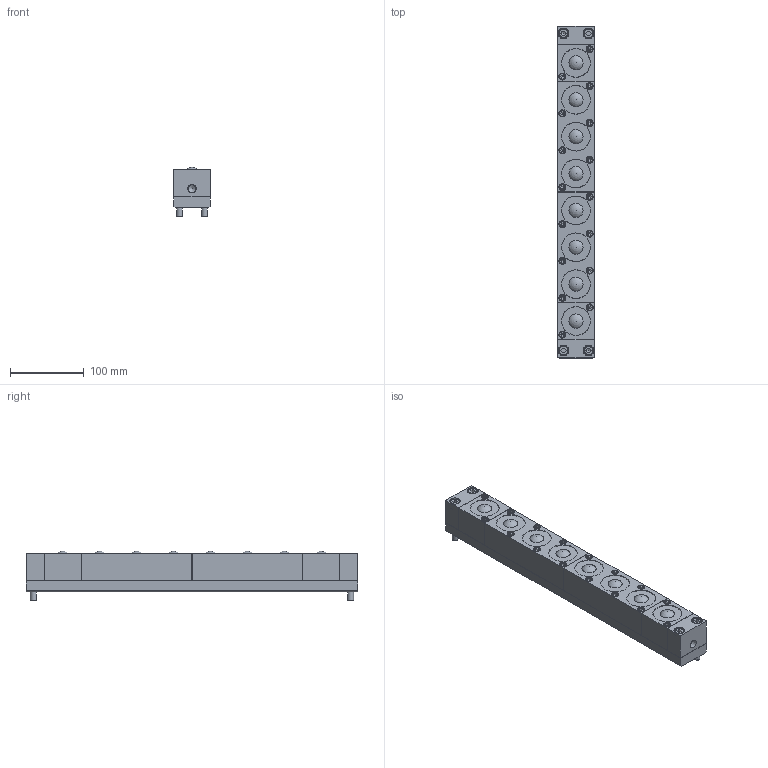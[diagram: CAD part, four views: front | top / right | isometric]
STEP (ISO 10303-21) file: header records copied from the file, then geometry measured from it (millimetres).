
FILE_DESCRIPTION(/* description */ (''),/* implementation_level */ '2;1');
FILE_NAME(/* name */ 'Z:\34-Tei\01-web 3Dデータ\08-ISR-C50S型\ISR-C50S-450-A.stp',/* time_stamp */ '2015-01-15T15:49:52+09:00',/* author */ ('yamaki'),/* organization */ (''),/* preprocessor_version */ 'ST-DEVELOPER v15.6',/* originating_system */ 'Autodesk Inventor 2015',/* authorisation */ '');
FILE_SCHEMA (('AUTOMOTIVE_DESIGN { 1 0 10303 214 3 1 1 }'));
Length unit declared in the file: millimetre
Products named in the file (6): 4200AT-01-450; 4601SL; 4600AA; ISO 4762 - M8 x 55ISO; 4601SL-3; ISR-C50S-100-A
Bounding box: 49.5 x 450 x 67 mm (x, y, z)
Volume: 1110861.7 mm3; surface area: 254825.5 mm2
Topology: 15 solids, 15 shells, 434 faces, 915 edges, 586 vertices
Faces by surface type: plane 297, cylinder 77, cone 30, torus 22, sphere 8
Full cylindrical faces by diameter (mm): 8 x2, 8.5 x16, 9 x2, 9.5 x16, 10.5 x1, 13 x4, 14.5 x4, 38.7 x8, 39 x8, 42 x16
Entity records: 5937 total; most frequent: CARTESIAN_POINT 1066, DIRECTION 948, ORIENTED_EDGE 828, EDGE_CURVE 414, AXIS2_PLACEMENT_3D 340, EDGE_LOOP 330, VERTEX_POINT 296, LINE 268
